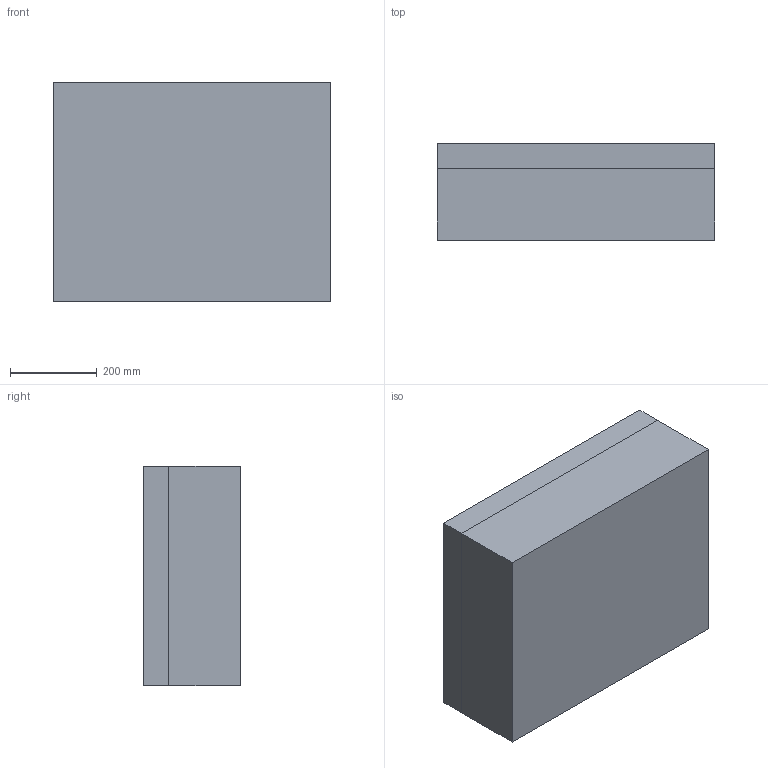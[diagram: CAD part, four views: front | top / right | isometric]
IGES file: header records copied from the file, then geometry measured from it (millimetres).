
Start section: SolidWorks IGES file using analytic representation for surfaces
Global section: file name: S:\Share\NANUK\Solidworks\Dummies\For Line Drawings\IGES\945.IGS; native system: SolidWorks 2008; preprocessor: SolidWorks 2008; author: adallaire; date: 090127.113127; units: inch
Bounding box: 638.12 x 222.42 x 505.43 mm (x, y, z)
Surface area: 2148887.9 mm2 (no closed solid volume)
Topology: 0 solids, 0 shells, 735 faces, 10988 edges, 10977 vertices
Faces by surface type: bspline 469, revolution 266
